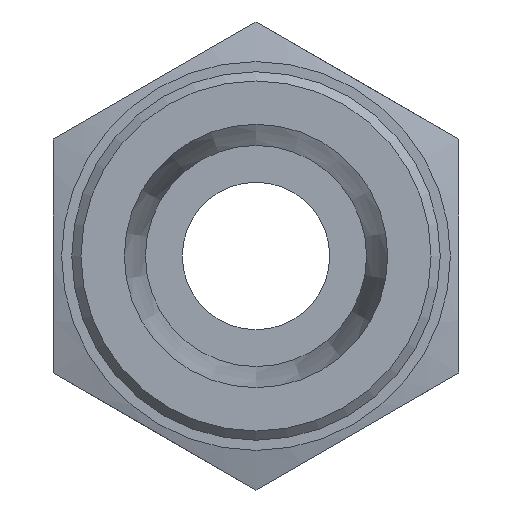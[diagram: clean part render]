
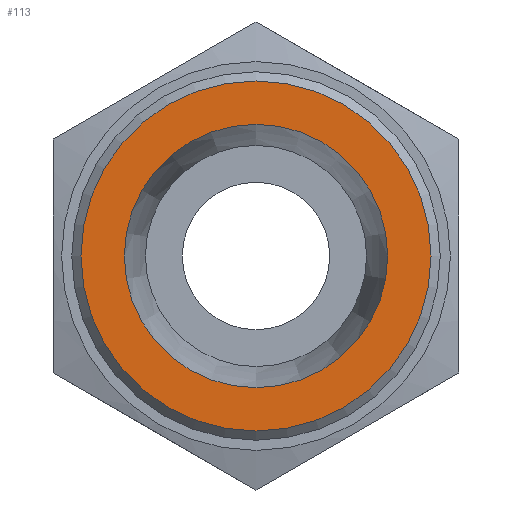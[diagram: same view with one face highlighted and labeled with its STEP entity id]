
A CAD part, left-side view. The second image highlights one B-rep face of the part: STEP entity #113.
In plain terms, the highlighted planar face has unit normal (-1, 0, 0).
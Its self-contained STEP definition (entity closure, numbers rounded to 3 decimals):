
#113 = ADVANCED_FACE( '', ( #245, #246 ), #247, .T. );
#245 = FACE_OUTER_BOUND( '', #370, .T. );
#246 = FACE_BOUND( '', #371, .T. );
#247 = PLANE( '', #372 );
#370 = EDGE_LOOP( '', ( #572 ) );
#371 = EDGE_LOOP( '', ( #573 ) );
#372 = AXIS2_PLACEMENT_3D( '', #574, #575, #576 );
#572 = ORIENTED_EDGE( '', *, *, #617, .T. );
#573 = ORIENTED_EDGE( '', *, *, #636, .F. );
#574 = CARTESIAN_POINT( '', ( -17., -11., -6.351 ) );
#575 = DIRECTION( '', ( -1., 0., 0. ) );
#576 = DIRECTION( '', ( 0., -1., 0. ) );
#617 = EDGE_CURVE( '', #711, #711, #712, .T. );
#636 = EDGE_CURVE( '', #740, #740, #741, .T. );
#711 = VERTEX_POINT( '', #880 );
#712 = CIRCLE( '', #881, 9.5 );
#740 = VERTEX_POINT( '', #929 );
#741 = CIRCLE( '', #930, 7.15 );
#880 = CARTESIAN_POINT( '', ( -17., -9.5, 0. ) );
#881 = AXIS2_PLACEMENT_3D( '', #1023, #1024, #1025 );
#929 = CARTESIAN_POINT( '', ( -17., 0., 7.15 ) );
#930 = AXIS2_PLACEMENT_3D( '', #1047, #1048, #1049 );
#1023 = CARTESIAN_POINT( '', ( -17., 0., 0. ) );
#1024 = DIRECTION( '', ( -1., 0., 0. ) );
#1025 = DIRECTION( '', ( 0., -1., 0. ) );
#1047 = CARTESIAN_POINT( '', ( -17., 0., 0. ) );
#1048 = DIRECTION( '', ( -1., 0., 0. ) );
#1049 = DIRECTION( '', ( 0., 0., 1. ) );
